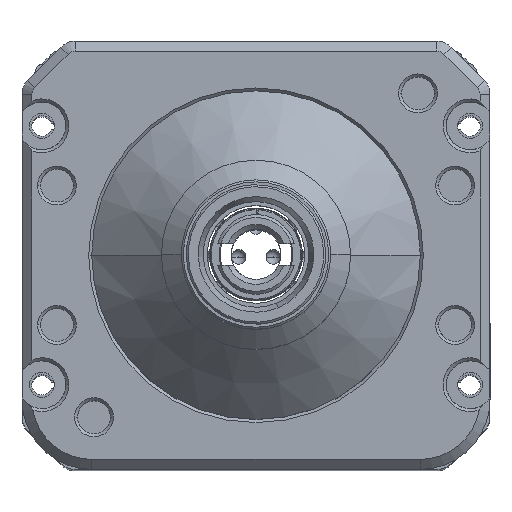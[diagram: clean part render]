
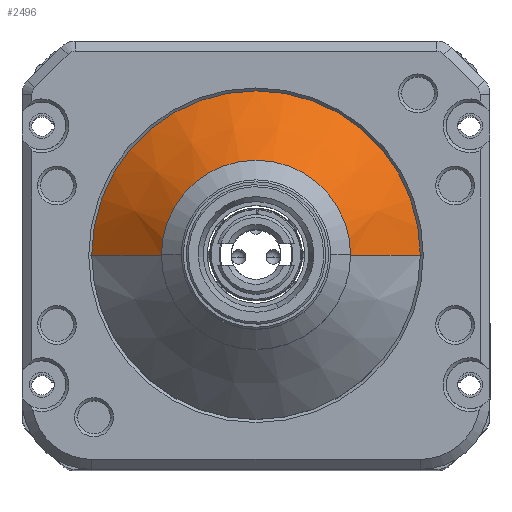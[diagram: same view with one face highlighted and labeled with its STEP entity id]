
A CAD part, top view. The second image highlights one B-rep face of the part: STEP entity #2496.
In plain terms, the highlighted conical face has half-angle 45 degrees and reference radius 9.5 mm.
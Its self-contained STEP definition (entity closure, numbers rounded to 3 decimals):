
#343 = EDGE_LOOP ( 'NONE', ( #6518, #3211, #3860, #18980 ) ) ;
#1385 = AXIS2_PLACEMENT_3D ( 'NONE', #24891, #9872, #14940 ) ;
#1393 = DIRECTION ( 'NONE',  ( 0., 0., 1. ) ) ;
#2427 = CIRCLE ( 'NONE', #1385, 16.5 ) ;
#2496 = ADVANCED_FACE ( 'NONE', ( #24657 ), #28500, .T. ) ;
#3209 = CARTESIAN_POINT ( 'NONE',  ( -9.5, 0., 22. ) ) ;
#3211 = ORIENTED_EDGE ( 'NONE', *, *, #18671, .T. ) ;
#3860 = ORIENTED_EDGE ( 'NONE', *, *, #32036, .T. ) ;
#6518 = ORIENTED_EDGE ( 'NONE', *, *, #13360, .F. ) ;
#6905 = CARTESIAN_POINT ( 'NONE',  ( 0., 0., 22. ) ) ;
#7316 = CARTESIAN_POINT ( 'NONE',  ( 9.5, 0., 22. ) ) ;
#7510 = CARTESIAN_POINT ( 'NONE',  ( -9.5, 0., 22. ) ) ;
#9639 = VERTEX_POINT ( 'NONE', #3209 ) ;
#9872 = DIRECTION ( 'NONE',  ( 0., 0., 1. ) ) ;
#9947 = LINE ( 'NONE', #7510, #19336 ) ;
#13150 = VERTEX_POINT ( 'NONE', #31046 ) ;
#13360 = EDGE_CURVE ( 'NONE', #19755, #9639, #30847, .T. ) ;
#13729 = CARTESIAN_POINT ( 'NONE',  ( 0., 0., 22. ) ) ;
#14316 = VERTEX_POINT ( 'NONE', #28508 ) ;
#14940 = DIRECTION ( 'NONE',  ( 1., 0., 0. ) ) ;
#17611 = CARTESIAN_POINT ( 'NONE',  ( 9.5, 0., 22. ) ) ;
#18312 = AXIS2_PLACEMENT_3D ( 'NONE', #13729, #1393, #21216 ) ;
#18671 = EDGE_CURVE ( 'NONE', #19755, #14316, #25585, .T. ) ;
#18980 = ORIENTED_EDGE ( 'NONE', *, *, #25738, .F. ) ;
#19336 = VECTOR ( 'NONE', #27576, 1000. ) ;
#19434 = DIRECTION ( 'NONE',  ( 0., 0., -1. ) ) ;
#19755 = VERTEX_POINT ( 'NONE', #7316 ) ;
#21216 = DIRECTION ( 'NONE',  ( 1., 0., 0. ) ) ;
#21864 = DIRECTION ( 'NONE',  ( -1., 0., 0. ) ) ;
#23851 = VECTOR ( 'NONE', #27738, 1000. ) ;
#24657 = FACE_OUTER_BOUND ( 'NONE', #343, .T. ) ;
#24891 = CARTESIAN_POINT ( 'NONE',  ( 0., 0., 15. ) ) ;
#25585 = LINE ( 'NONE', #17611, #23851 ) ;
#25738 = EDGE_CURVE ( 'NONE', #9639, #13150, #9947, .T. ) ;
#27576 = DIRECTION ( 'NONE',  ( -0.707, 0., -0.707 ) ) ;
#27738 = DIRECTION ( 'NONE',  ( 0.707, 0., -0.707 ) ) ;
#28500 = CONICAL_SURFACE ( 'NONE', #29054, 9.5, 0.785 ) ;
#28508 = CARTESIAN_POINT ( 'NONE',  ( 16.5, 0., 15. ) ) ;
#29054 = AXIS2_PLACEMENT_3D ( 'NONE', #6905, #19434, #21864 ) ;
#30847 = CIRCLE ( 'NONE', #18312, 9.5 ) ;
#31046 = CARTESIAN_POINT ( 'NONE',  ( -16.5, 0., 15. ) ) ;
#32036 = EDGE_CURVE ( 'NONE', #14316, #13150, #2427, .T. ) ;
